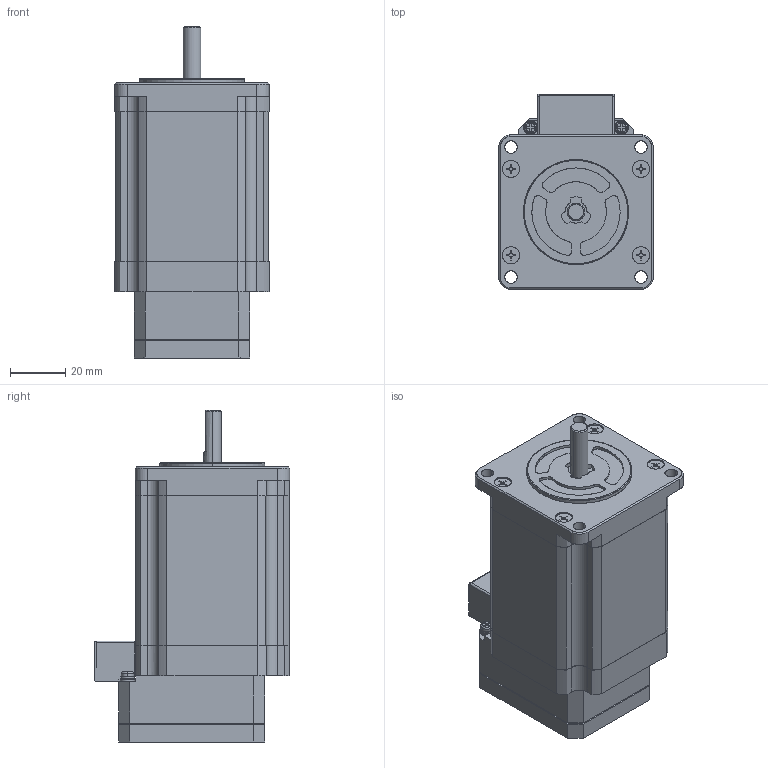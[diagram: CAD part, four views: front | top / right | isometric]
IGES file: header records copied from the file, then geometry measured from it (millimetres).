
Start section: SolidWorks IGES file using analytic representation for surfaces
Global section: file name: C:\Users\render\Documents\CAD Files\CoolmuscleMotors\CM1 Series CAD\CM1-23L-NE\CM1-X-23L20C.IGS; native system: SolidWorks 2011; preprocessor: SolidWorks 2011; author: render; date: 120206.095952; units: millimetre
Bounding box: 56 x 70.81 x 120.4 mm (x, y, z)
Surface area: 34409.9 mm2 (no closed solid volume)
Topology: 0 solids, 0 shells, 907 faces, 7798 edges, 7782 vertices
Faces by surface type: bspline 632, revolution 275
